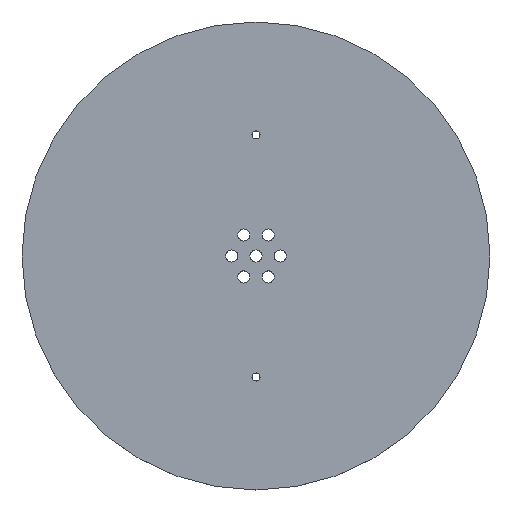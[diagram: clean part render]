
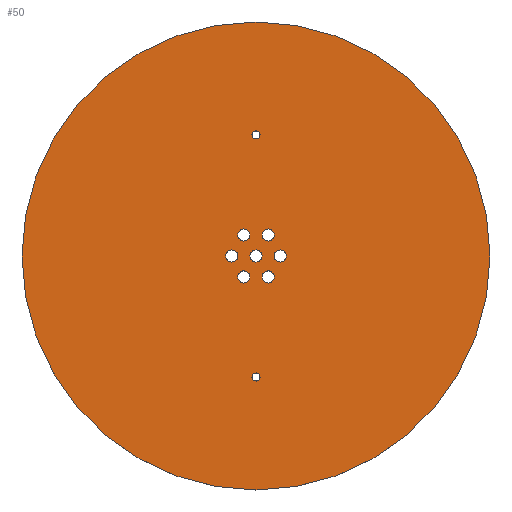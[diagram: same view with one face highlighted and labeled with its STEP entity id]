
A CAD part, top view. The second image highlights one B-rep face of the part: STEP entity #50.
In plain terms, the highlighted planar face has unit normal (0, 0, 1).
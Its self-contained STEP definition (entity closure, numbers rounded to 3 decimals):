
#21 = EDGE_CURVE('',#22,#22,#24,.T.);
#22 = VERTEX_POINT('',#23);
#23 = CARTESIAN_POINT('',(58.,0.,84.5));
#24 = CIRCLE('',#25,58.);
#25 = AXIS2_PLACEMENT_3D('',#26,#27,#28);
#26 = CARTESIAN_POINT('',(0.,0.,84.5));
#27 = DIRECTION('',(0.,0.,1.));
#28 = DIRECTION('',(1.,0.,0.));
#50 = ADVANCED_FACE('',(#51,#54,#65,#76,#87,#98,#109,#120,#131,#142),
  #153,.T.);
#51 = FACE_BOUND('',#52,.T.);
#52 = EDGE_LOOP('',(#53));
#53 = ORIENTED_EDGE('',*,*,#21,.T.);
#54 = FACE_BOUND('',#55,.T.);
#55 = EDGE_LOOP('',(#56));
#56 = ORIENTED_EDGE('',*,*,#57,.F.);
#57 = EDGE_CURVE('',#58,#58,#60,.T.);
#58 = VERTEX_POINT('',#59);
#59 = CARTESIAN_POINT('',(-1.5,-5.196,84.5));
#60 = CIRCLE('',#61,1.5);
#61 = AXIS2_PLACEMENT_3D('',#62,#63,#64);
#62 = CARTESIAN_POINT('',(-3.,-5.196,84.5));
#63 = DIRECTION('',(0.,0.,1.));
#64 = DIRECTION('',(1.,0.,0.));
#65 = FACE_BOUND('',#66,.T.);
#66 = EDGE_LOOP('',(#67));
#67 = ORIENTED_EDGE('',*,*,#68,.F.);
#68 = EDGE_CURVE('',#69,#69,#71,.T.);
#69 = VERTEX_POINT('',#70);
#70 = CARTESIAN_POINT('',(1.,-30.,84.5));
#71 = CIRCLE('',#72,1.);
#72 = AXIS2_PLACEMENT_3D('',#73,#74,#75);
#73 = CARTESIAN_POINT('',(0.,-30.,84.5));
#74 = DIRECTION('',(0.,0.,1.));
#75 = DIRECTION('',(1.,0.,0.));
#76 = FACE_BOUND('',#77,.T.);
#77 = EDGE_LOOP('',(#78));
#78 = ORIENTED_EDGE('',*,*,#79,.F.);
#79 = EDGE_CURVE('',#80,#80,#82,.T.);
#80 = VERTEX_POINT('',#81);
#81 = CARTESIAN_POINT('',(4.5,-5.196,84.5));
#82 = CIRCLE('',#83,1.5);
#83 = AXIS2_PLACEMENT_3D('',#84,#85,#86);
#84 = CARTESIAN_POINT('',(3.,-5.196,84.5));
#85 = DIRECTION('',(0.,0.,1.));
#86 = DIRECTION('',(1.,0.,0.));
#87 = FACE_BOUND('',#88,.T.);
#88 = EDGE_LOOP('',(#89));
#89 = ORIENTED_EDGE('',*,*,#90,.F.);
#90 = EDGE_CURVE('',#91,#91,#93,.T.);
#91 = VERTEX_POINT('',#92);
#92 = CARTESIAN_POINT('',(-4.5,0.,84.5));
#93 = CIRCLE('',#94,1.5);
#94 = AXIS2_PLACEMENT_3D('',#95,#96,#97);
#95 = CARTESIAN_POINT('',(-6.,0.,84.5));
#96 = DIRECTION('',(0.,0.,1.));
#97 = DIRECTION('',(1.,0.,0.));
#98 = FACE_BOUND('',#99,.T.);
#99 = EDGE_LOOP('',(#100));
#100 = ORIENTED_EDGE('',*,*,#101,.F.);
#101 = EDGE_CURVE('',#102,#102,#104,.T.);
#102 = VERTEX_POINT('',#103);
#103 = CARTESIAN_POINT('',(-1.5,5.196,84.5));
#104 = CIRCLE('',#105,1.5);
#105 = AXIS2_PLACEMENT_3D('',#106,#107,#108);
#106 = CARTESIAN_POINT('',(-3.,5.196,84.5));
#107 = DIRECTION('',(0.,0.,1.));
#108 = DIRECTION('',(1.,0.,0.));
#109 = FACE_BOUND('',#110,.T.);
#110 = EDGE_LOOP('',(#111));
#111 = ORIENTED_EDGE('',*,*,#112,.F.);
#112 = EDGE_CURVE('',#113,#113,#115,.T.);
#113 = VERTEX_POINT('',#114);
#114 = CARTESIAN_POINT('',(1.5,0.,84.5));
#115 = CIRCLE('',#116,1.5);
#116 = AXIS2_PLACEMENT_3D('',#117,#118,#119);
#117 = CARTESIAN_POINT('',(0.,0.,84.5));
#118 = DIRECTION('',(0.,0.,1.));
#119 = DIRECTION('',(1.,0.,0.));
#120 = FACE_BOUND('',#121,.T.);
#121 = EDGE_LOOP('',(#122));
#122 = ORIENTED_EDGE('',*,*,#123,.F.);
#123 = EDGE_CURVE('',#124,#124,#126,.T.);
#124 = VERTEX_POINT('',#125);
#125 = CARTESIAN_POINT('',(4.5,5.196,84.5));
#126 = CIRCLE('',#127,1.5);
#127 = AXIS2_PLACEMENT_3D('',#128,#129,#130);
#128 = CARTESIAN_POINT('',(3.,5.196,84.5));
#129 = DIRECTION('',(0.,0.,1.));
#130 = DIRECTION('',(1.,0.,0.));
#131 = FACE_BOUND('',#132,.T.);
#132 = EDGE_LOOP('',(#133));
#133 = ORIENTED_EDGE('',*,*,#134,.F.);
#134 = EDGE_CURVE('',#135,#135,#137,.T.);
#135 = VERTEX_POINT('',#136);
#136 = CARTESIAN_POINT('',(7.5,0.,84.5));
#137 = CIRCLE('',#138,1.5);
#138 = AXIS2_PLACEMENT_3D('',#139,#140,#141);
#139 = CARTESIAN_POINT('',(6.,0.,84.5));
#140 = DIRECTION('',(0.,0.,1.));
#141 = DIRECTION('',(1.,0.,0.));
#142 = FACE_BOUND('',#143,.T.);
#143 = EDGE_LOOP('',(#144));
#144 = ORIENTED_EDGE('',*,*,#145,.F.);
#145 = EDGE_CURVE('',#146,#146,#148,.T.);
#146 = VERTEX_POINT('',#147);
#147 = CARTESIAN_POINT('',(1.,30.,84.5));
#148 = CIRCLE('',#149,1.);
#149 = AXIS2_PLACEMENT_3D('',#150,#151,#152);
#150 = CARTESIAN_POINT('',(0.,30.,84.5));
#151 = DIRECTION('',(0.,0.,1.));
#152 = DIRECTION('',(1.,0.,0.));
#153 = PLANE('',#154);
#154 = AXIS2_PLACEMENT_3D('',#155,#156,#157);
#155 = CARTESIAN_POINT('',(0.,0.,84.5));
#156 = DIRECTION('',(0.,0.,1.));
#157 = DIRECTION('',(1.,0.,0.));
